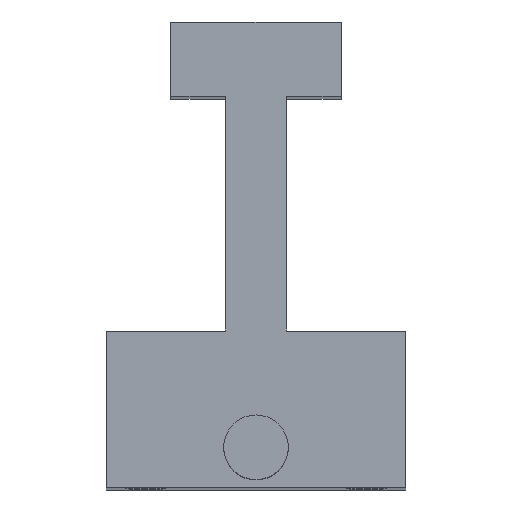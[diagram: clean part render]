
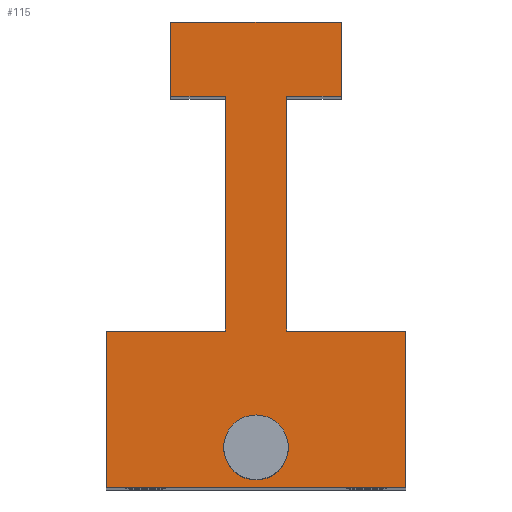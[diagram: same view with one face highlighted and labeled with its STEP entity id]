
A CAD part, top view. The second image highlights one B-rep face of the part: STEP entity #115.
In plain terms, the highlighted planar face has unit normal (0, 0, 1).
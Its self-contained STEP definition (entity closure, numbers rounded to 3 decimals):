
#4 = ORIENTED_EDGE ( 'NONE', *, *, #1680, .T. ) ;
#18 = EDGE_CURVE ( 'NONE', #1360, #755, #23, .T. ) ;
#23 = LINE ( 'NONE', #617, #1307 ) ;
#28 = ORIENTED_EDGE ( 'NONE', *, *, #1485, .T. ) ;
#32 = VERTEX_POINT ( 'NONE', #488 ) ;
#33 = DIRECTION ( 'NONE',  ( -1., 0., 0. ) ) ;
#38 = DIRECTION ( 'NONE',  ( 0., 1., 0. ) ) ;
#65 = LINE ( 'NONE', #478, #1427 ) ;
#84 = VERTEX_POINT ( 'NONE', #1880 ) ;
#95 = DIRECTION ( 'NONE',  ( -1., 0., 0. ) ) ;
#104 = CARTESIAN_POINT ( 'NONE',  ( 5.4, 10.05, 106. ) ) ;
#115 = ADVANCED_FACE ( 'NONE', ( #1435, #663 ), #367, .F. ) ;
#119 = DIRECTION ( 'NONE',  ( -1., 0., 0. ) ) ;
#125 = VERTEX_POINT ( 'NONE', #1299 ) ;
#143 = DIRECTION ( 'NONE',  ( 0., 0., 1. ) ) ;
#148 = ORIENTED_EDGE ( 'NONE', *, *, #305, .T. ) ;
#162 = EDGE_CURVE ( 'NONE', #1972, #1735, #222, .T. ) ;
#184 = DIRECTION ( 'NONE',  ( 1., 0., 0. ) ) ;
#186 = DIRECTION ( 'NONE',  ( 0., -1., 0. ) ) ;
#194 = CARTESIAN_POINT ( 'NONE',  ( 0., -12.25, 106. ) ) ;
#199 = CARTESIAN_POINT ( 'NONE',  ( 9.5, -14.75, 106. ) ) ;
#206 = CARTESIAN_POINT ( 'NONE',  ( -1.95, -4.85, 106. ) ) ;
#222 = CIRCLE ( 'NONE', #1608, 2.05 ) ;
#249 = VERTEX_POINT ( 'NONE', #1499 ) ;
#254 = VECTOR ( 'NONE', #1220, 1000. ) ;
#305 = EDGE_CURVE ( 'NONE', #800, #1360, #1661, .T. ) ;
#324 = AXIS2_PLACEMENT_3D ( 'NONE', #444, #143, #119 ) ;
#339 = DIRECTION ( 'NONE',  ( 0., 0., 1. ) ) ;
#354 = CARTESIAN_POINT ( 'NONE',  ( 9.5, -14.75, 106. ) ) ;
#367 = PLANE ( 'NONE',  #1510 ) ;
#374 = CARTESIAN_POINT ( 'NONE',  ( -5.4, 14.75, 106. ) ) ;
#404 = VECTOR ( 'NONE', #611, 1000. ) ;
#444 = CARTESIAN_POINT ( 'NONE',  ( 0., -12.25, 106. ) ) ;
#461 = VERTEX_POINT ( 'NONE', #1511 ) ;
#478 = CARTESIAN_POINT ( 'NONE',  ( 1.95, -4.85, 106. ) ) ;
#488 = CARTESIAN_POINT ( 'NONE',  ( -1.95, 10.05, 106. ) ) ;
#495 = CARTESIAN_POINT ( 'NONE',  ( -1.95, 10.05, 106. ) ) ;
#501 = DIRECTION ( 'NONE',  ( -1., 0., 0. ) ) ;
#512 = EDGE_CURVE ( 'NONE', #249, #84, #742, .T. ) ;
#546 = LINE ( 'NONE', #1746, #1894 ) ;
#585 = LINE ( 'NONE', #606, #1482 ) ;
#592 = EDGE_CURVE ( 'NONE', #84, #1755, #916, .T. ) ;
#602 = ORIENTED_EDGE ( 'NONE', *, *, #1339, .T. ) ;
#606 = CARTESIAN_POINT ( 'NONE',  ( -9.5, -4.85, 106. ) ) ;
#607 = EDGE_CURVE ( 'NONE', #993, #1536, #1490, .T. ) ;
#611 = DIRECTION ( 'NONE',  ( 0., -1., 0. ) ) ;
#617 = CARTESIAN_POINT ( 'NONE',  ( -5.4, 10.05, 106. ) ) ;
#630 = EDGE_CURVE ( 'NONE', #32, #1332, #546, .T. ) ;
#654 = VECTOR ( 'NONE', #813, 1000. ) ;
#663 = FACE_OUTER_BOUND ( 'NONE', #1018, .T. ) ;
#729 = CARTESIAN_POINT ( 'NONE',  ( 9.5, -4.85, 106. ) ) ;
#730 = LINE ( 'NONE', #495, #654 ) ;
#742 = LINE ( 'NONE', #935, #404 ) ;
#755 = VERTEX_POINT ( 'NONE', #1312 ) ;
#784 = DIRECTION ( 'NONE',  ( 0., -1., 0. ) ) ;
#786 = DIRECTION ( 'NONE',  ( -1., 0., 0. ) ) ;
#787 = VECTOR ( 'NONE', #987, 1000. ) ;
#794 = CARTESIAN_POINT ( 'NONE',  ( 5.4, 14.75, 106. ) ) ;
#800 = VERTEX_POINT ( 'NONE', #1497 ) ;
#812 = DIRECTION ( 'NONE',  ( 0., 0., -1. ) ) ;
#813 = DIRECTION ( 'NONE',  ( 1., 0., 0. ) ) ;
#827 = CARTESIAN_POINT ( 'NONE',  ( 0., 0., 106. ) ) ;
#842 = CARTESIAN_POINT ( 'NONE',  ( -5.4, 14.75, 106. ) ) ;
#884 = LINE ( 'NONE', #1790, #787 ) ;
#916 = LINE ( 'NONE', #199, #1747 ) ;
#921 = EDGE_LOOP ( 'NONE', ( #1064, #1734 ) ) ;
#924 = ORIENTED_EDGE ( 'NONE', *, *, #1278, .T. ) ;
#935 = CARTESIAN_POINT ( 'NONE',  ( -9.5, -14.75, 106. ) ) ;
#960 = VECTOR ( 'NONE', #184, 1000. ) ;
#983 = EDGE_CURVE ( 'NONE', #1735, #1972, #1429, .T. ) ;
#987 = DIRECTION ( 'NONE',  ( 0., 1., 0. ) ) ;
#993 = VERTEX_POINT ( 'NONE', #1526 ) ;
#1018 = EDGE_LOOP ( 'NONE', ( #1282, #1414, #1924, #4, #1520, #1711, #1968, #924, #28, #1706, #602, #148 ) ) ;
#1064 = ORIENTED_EDGE ( 'NONE', *, *, #162, .F. ) ;
#1136 = DIRECTION ( 'NONE',  ( -1., 0., 0. ) ) ;
#1137 = CARTESIAN_POINT ( 'NONE',  ( -2.05, -12.25, 106. ) ) ;
#1220 = DIRECTION ( 'NONE',  ( 0., 1., 0. ) ) ;
#1263 = CARTESIAN_POINT ( 'NONE',  ( 2.05, -12.25, 106. ) ) ;
#1278 = EDGE_CURVE ( 'NONE', #461, #125, #65, .T. ) ;
#1282 = ORIENTED_EDGE ( 'NONE', *, *, #18, .T. ) ;
#1299 = CARTESIAN_POINT ( 'NONE',  ( 1.95, -4.85, 106. ) ) ;
#1307 = VECTOR ( 'NONE', #186, 1000. ) ;
#1312 = CARTESIAN_POINT ( 'NONE',  ( -5.4, 10.05, 106. ) ) ;
#1332 = VERTEX_POINT ( 'NONE', #206 ) ;
#1339 = EDGE_CURVE ( 'NONE', #1536, #800, #1375, .T. ) ;
#1360 = VERTEX_POINT ( 'NONE', #842 ) ;
#1375 = LINE ( 'NONE', #794, #1743 ) ;
#1414 = ORIENTED_EDGE ( 'NONE', *, *, #1803, .T. ) ;
#1422 = DIRECTION ( 'NONE',  ( 1., 0., 0. ) ) ;
#1427 = VECTOR ( 'NONE', #33, 1000. ) ;
#1429 = CIRCLE ( 'NONE', #324, 2.05 ) ;
#1435 = FACE_BOUND ( 'NONE', #921, .T. ) ;
#1445 = CARTESIAN_POINT ( 'NONE',  ( 5.4, 10.05, 106. ) ) ;
#1482 = VECTOR ( 'NONE', #786, 1000. ) ;
#1485 = EDGE_CURVE ( 'NONE', #125, #993, #884, .T. ) ;
#1490 = LINE ( 'NONE', #1445, #960 ) ;
#1497 = CARTESIAN_POINT ( 'NONE',  ( 5.4, 14.75, 106. ) ) ;
#1499 = CARTESIAN_POINT ( 'NONE',  ( -9.5, -4.85, 106. ) ) ;
#1510 = AXIS2_PLACEMENT_3D ( 'NONE', #827, #812, #1136 ) ;
#1511 = CARTESIAN_POINT ( 'NONE',  ( 9.5, -4.85, 106. ) ) ;
#1520 = ORIENTED_EDGE ( 'NONE', *, *, #512, .T. ) ;
#1526 = CARTESIAN_POINT ( 'NONE',  ( 1.95, 10.05, 106. ) ) ;
#1536 = VERTEX_POINT ( 'NONE', #104 ) ;
#1608 = AXIS2_PLACEMENT_3D ( 'NONE', #194, #339, #501 ) ;
#1661 = LINE ( 'NONE', #374, #1776 ) ;
#1680 = EDGE_CURVE ( 'NONE', #1332, #249, #585, .T. ) ;
#1706 = ORIENTED_EDGE ( 'NONE', *, *, #607, .T. ) ;
#1711 = ORIENTED_EDGE ( 'NONE', *, *, #592, .T. ) ;
#1734 = ORIENTED_EDGE ( 'NONE', *, *, #983, .F. ) ;
#1735 = VERTEX_POINT ( 'NONE', #1263 ) ;
#1743 = VECTOR ( 'NONE', #38, 1000. ) ;
#1746 = CARTESIAN_POINT ( 'NONE',  ( -1.95, -4.85, 106. ) ) ;
#1747 = VECTOR ( 'NONE', #1422, 1000. ) ;
#1755 = VERTEX_POINT ( 'NONE', #354 ) ;
#1763 = LINE ( 'NONE', #729, #254 ) ;
#1776 = VECTOR ( 'NONE', #95, 1000. ) ;
#1790 = CARTESIAN_POINT ( 'NONE',  ( 1.95, 10.05, 106. ) ) ;
#1803 = EDGE_CURVE ( 'NONE', #755, #32, #730, .T. ) ;
#1880 = CARTESIAN_POINT ( 'NONE',  ( -9.5, -14.75, 106. ) ) ;
#1894 = VECTOR ( 'NONE', #784, 1000. ) ;
#1924 = ORIENTED_EDGE ( 'NONE', *, *, #630, .T. ) ;
#1968 = ORIENTED_EDGE ( 'NONE', *, *, #1978, .T. ) ;
#1972 = VERTEX_POINT ( 'NONE', #1137 ) ;
#1978 = EDGE_CURVE ( 'NONE', #1755, #461, #1763, .T. ) ;
